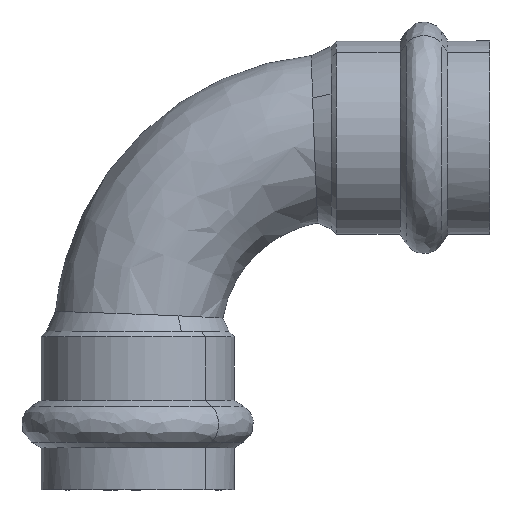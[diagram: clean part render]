
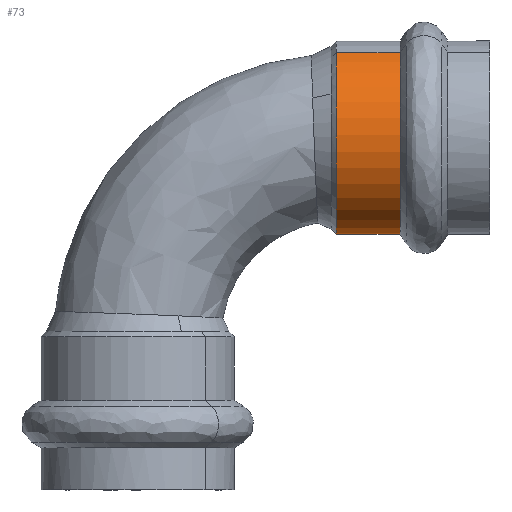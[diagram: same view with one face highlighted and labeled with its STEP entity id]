
A CAD part, front view. The second image highlights one B-rep face of the part: STEP entity #73.
In plain terms, the highlighted cylindrical face has radius 14.7 mm (diameter 29.4 mm), a partial arc.
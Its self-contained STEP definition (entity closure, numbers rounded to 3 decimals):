
#73=ADVANCED_FACE('',(#172),#173,.T.);
#172=FACE_OUTER_BOUND('',#503,.T.);
#173=CYLINDRICAL_SURFACE('',#504,14.7);
#503=EDGE_LOOP('',(#866,#867,#868,#869));
#504=AXIS2_PLACEMENT_3D('',#870,#871,#872);
#866=ORIENTED_EDGE('',*,*,#1203,.F.);
#867=ORIENTED_EDGE('',*,*,#1204,.F.);
#868=ORIENTED_EDGE('',*,*,#1205,.F.);
#869=ORIENTED_EDGE('',*,*,#1206,.T.);
#870=CARTESIAN_POINT('',(32.14,0.,0.));
#871=DIRECTION('',(-1.0,0.,0.));
#872=DIRECTION('',(0.,0.474,-0.881));
#1203=EDGE_CURVE('',#1382,#1370,#1383,.T.);
#1204=EDGE_CURVE('',#1384,#1382,#1385,.T.);
#1205=EDGE_CURVE('',#1376,#1384,#1386,.T.);
#1206=EDGE_CURVE('',#1376,#1370,#1387,.T.);
#1370=VERTEX_POINT('',#1966);
#1376=VERTEX_POINT('',#1973);
#1382=VERTEX_POINT('',#1980);
#1383=LINE('',#1981,#1982);
#1384=VERTEX_POINT('',#1983);
#1385=CIRCLE('',#1984,14.7);
#1386=LINE('',#1985,#1986);
#1387=CIRCLE('',#1987,14.7);
#1966=CARTESIAN_POINT('',(30.2,6.966,-12.945));
#1973=CARTESIAN_POINT('',(30.2,-6.966,12.945));
#1980=CARTESIAN_POINT('',(39.9,6.966,-12.945));
#1981=CARTESIAN_POINT('',(32.14,6.966,-12.945));
#1982=VECTOR('',#2627,1.0);
#1983=CARTESIAN_POINT('',(39.9,-6.966,12.945));
#1984=AXIS2_PLACEMENT_3D('',#2628,#2629,#2630);
#1985=CARTESIAN_POINT('',(32.14,-6.966,12.945));
#1986=VECTOR('',#2631,1.0);
#1987=AXIS2_PLACEMENT_3D('',#2632,#2633,#2634);
#2627=DIRECTION('',(-1.0,0.,0.));
#2628=CARTESIAN_POINT('',(39.9,0.,0.));
#2629=DIRECTION('',(1.0,0.,0.));
#2630=DIRECTION('',(0.,0.881,0.474));
#2631=DIRECTION('',(1.0,0.,0.));
#2632=CARTESIAN_POINT('',(30.2,0.,0.));
#2633=DIRECTION('',(1.0,0.,0.));
#2634=DIRECTION('',(0.,0.881,0.474));
